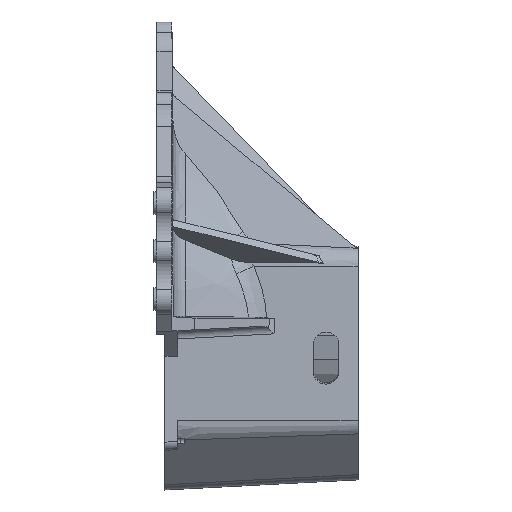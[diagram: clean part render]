
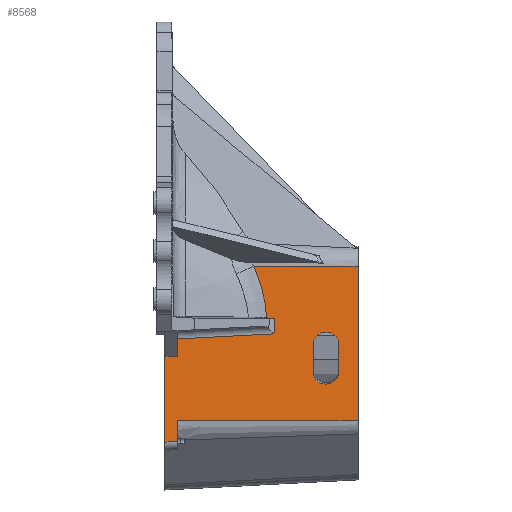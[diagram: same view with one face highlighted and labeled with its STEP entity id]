
A CAD part, front view. The second image highlights one B-rep face of the part: STEP entity #8568.
In plain terms, the highlighted planar face has unit normal (0.052, -0.998, 0.026).
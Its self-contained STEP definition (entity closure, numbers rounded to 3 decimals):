
#36=ELLIPSE('',#8930,10.347,10.16);
#37=ELLIPSE('',#8931,10.347,10.16);
#100=PLANE('',#8929);
#305=B_SPLINE_CURVE_WITH_KNOTS('',3,(#11445,#11446,#11447,#11448),
 .UNSPECIFIED.,.F.,.F.,(4,4),(0.,0.042),.UNSPECIFIED.);
#597=LINE('',#11427,#963);
#598=LINE('',#11431,#964);
#599=LINE('',#11432,#965);
#600=LINE('',#11435,#966);
#601=LINE('',#11437,#967);
#602=LINE('',#11439,#968);
#603=LINE('',#11441,#969);
#604=LINE('',#11443,#970);
#605=LINE('',#11450,#971);
#606=LINE('',#11452,#972);
#607=LINE('',#11454,#973);
#608=LINE('',#11456,#974);
#609=LINE('',#11458,#975);
#610=LINE('',#11460,#976);
#963=VECTOR('',#9610,1000.);
#964=VECTOR('',#9613,1000.);
#965=VECTOR('',#9614,1000.);
#966=VECTOR('',#9615,1000.);
#967=VECTOR('',#9616,1000.);
#968=VECTOR('',#9617,1000.);
#969=VECTOR('',#9618,1000.);
#970=VECTOR('',#9619,1000.);
#971=VECTOR('',#9620,1000.);
#972=VECTOR('',#9621,1000.);
#973=VECTOR('',#9622,1000.);
#974=VECTOR('',#9623,1000.);
#975=VECTOR('',#9624,1000.);
#976=VECTOR('',#9625,1000.);
#1366=ORIENTED_EDGE('',*,*,#3274,.F.);
#1367=ORIENTED_EDGE('',*,*,#3275,.F.);
#1368=ORIENTED_EDGE('',*,*,#3276,.F.);
#1369=ORIENTED_EDGE('',*,*,#3277,.F.);
#1370=ORIENTED_EDGE('',*,*,#3278,.F.);
#1371=ORIENTED_EDGE('',*,*,#3279,.T.);
#1372=ORIENTED_EDGE('',*,*,#3280,.F.);
#1373=ORIENTED_EDGE('',*,*,#3281,.T.);
#1374=ORIENTED_EDGE('',*,*,#3282,.T.);
#1375=ORIENTED_EDGE('',*,*,#3283,.F.);
#1376=ORIENTED_EDGE('',*,*,#3284,.T.);
#1377=ORIENTED_EDGE('',*,*,#3285,.F.);
#1378=ORIENTED_EDGE('',*,*,#3286,.T.);
#1379=ORIENTED_EDGE('',*,*,#3287,.T.);
#1380=ORIENTED_EDGE('',*,*,#3288,.T.);
#1381=ORIENTED_EDGE('',*,*,#3289,.F.);
#1382=ORIENTED_EDGE('',*,*,#3290,.T.);
#3274=EDGE_CURVE('',#4226,#4227,#36,.T.);
#3275=EDGE_CURVE('',#4228,#4226,#597,.T.);
#3276=EDGE_CURVE('',#4229,#4228,#37,.T.);
#3277=EDGE_CURVE('',#4227,#4229,#598,.T.);
#3278=EDGE_CURVE('',#4230,#4231,#599,.T.);
#3279=EDGE_CURVE('',#4230,#4232,#600,.T.);
#3280=EDGE_CURVE('',#4233,#4232,#601,.F.);
#3281=EDGE_CURVE('',#4233,#4234,#602,.F.);
#3282=EDGE_CURVE('',#4234,#4235,#603,.T.);
#3283=EDGE_CURVE('',#4236,#4235,#604,.F.);
#3284=EDGE_CURVE('',#4236,#4237,#305,.T.);
#3285=EDGE_CURVE('',#4238,#4237,#605,.T.);
#3286=EDGE_CURVE('',#4238,#4239,#606,.T.);
#3287=EDGE_CURVE('',#4239,#4240,#607,.T.);
#3288=EDGE_CURVE('',#4240,#4241,#608,.F.);
#3289=EDGE_CURVE('',#4242,#4241,#609,.T.);
#3290=EDGE_CURVE('',#4242,#4231,#610,.F.);
#4226=VERTEX_POINT('',#11425);
#4227=VERTEX_POINT('',#11426);
#4228=VERTEX_POINT('',#11428);
#4229=VERTEX_POINT('',#11430);
#4230=VERTEX_POINT('',#11433);
#4231=VERTEX_POINT('',#11434);
#4232=VERTEX_POINT('',#11436);
#4233=VERTEX_POINT('',#11438);
#4234=VERTEX_POINT('',#11440);
#4235=VERTEX_POINT('',#11442);
#4236=VERTEX_POINT('',#11444);
#4237=VERTEX_POINT('',#11449);
#4238=VERTEX_POINT('',#11451);
#4239=VERTEX_POINT('',#11453);
#4240=VERTEX_POINT('',#11455);
#4241=VERTEX_POINT('',#11457);
#4242=VERTEX_POINT('',#11459);
#5123=EDGE_LOOP('',(#1366,#1367,#1368,#1369));
#5124=EDGE_LOOP('',(#1370,#1371,#1372,#1373,#1374,#1375,#1376,#1377,#1378,
#1379,#1380,#1381,#1382));
#5580=FACE_BOUND('',#5123,.T.);
#5581=FACE_BOUND('',#5124,.T.);
#8568=ADVANCED_FACE('',(#5580,#5581),#100,.T.);
#8929=AXIS2_PLACEMENT_3D('',#11423,#9606,#9607);
#8930=AXIS2_PLACEMENT_3D('',#11424,#9608,#9609);
#8931=AXIS2_PLACEMENT_3D('',#11429,#9611,#9612);
#9606=DIRECTION('',(0.052,-0.998,0.026));
#9607=DIRECTION('',(0.999,0.052,0.));
#9608=DIRECTION('',(0.052,-0.998,0.026));
#9609=DIRECTION('',(0.272,0.039,0.962));
#9610=DIRECTION('',(0.,-0.026,-1.));
#9611=DIRECTION('',(0.052,-0.998,0.026));
#9612=DIRECTION('',(0.272,0.039,0.962));
#9613=DIRECTION('',(0.,0.026,1.));
#9614=DIRECTION('',(0.,0.026,1.));
#9615=DIRECTION('',(0.997,0.054,0.052));
#9616=DIRECTION('',(0.,0.026,1.));
#9617=DIRECTION('',(-0.999,-0.052,0.001));
#9618=DIRECTION('',(0.,0.026,1.));
#9619=DIRECTION('',(-0.999,-0.052,0.001));
#9620=DIRECTION('',(-0.997,-0.051,0.059));
#9621=DIRECTION('',(-0.027,-0.027,-0.999));
#9622=DIRECTION('',(-0.997,-0.054,-0.052));
#9623=DIRECTION('',(-0.24,0.013,0.971));
#9624=DIRECTION('',(0.,0.026,1.));
#9625=DIRECTION('',(0.998,0.053,0.021));
#11423=CARTESIAN_POINT('',(149.606,-121.258,3.15));
#11424=CARTESIAN_POINT('',(121.666,-123.631,-31.829));
#11425=CARTESIAN_POINT('',(111.506,-124.166,-31.913));
#11426=CARTESIAN_POINT('',(131.826,-123.096,-31.744));
#11427=CARTESIAN_POINT('',(111.506,-123.254,3.202));
#11428=CARTESIAN_POINT('',(111.506,-123.63,-11.255));
#11429=CARTESIAN_POINT('',(121.666,-123.095,-11.17));
#11430=CARTESIAN_POINT('',(131.826,-122.56,-11.086));
#11431=CARTESIAN_POINT('',(131.826,-122.189,3.174));
#11432=CARTESIAN_POINT('',(-6.35,-129.428,3.362));
#11433=CARTESIAN_POINT('',(-6.35,-131.809,-88.278));
#11434=CARTESIAN_POINT('',(-6.35,-130.04,-20.17));
#11435=CARTESIAN_POINT('',(3.462,-131.281,-87.764));
#11436=CARTESIAN_POINT('',(3.81,-131.263,-87.746));
#11437=CARTESIAN_POINT('',(3.81,-128.896,3.348));
#11438=CARTESIAN_POINT('',(3.81,-130.823,-70.831));
#11439=CARTESIAN_POINT('',(149.606,-123.185,-71.029));
#11440=CARTESIAN_POINT('',(147.066,-123.318,-71.026));
#11441=CARTESIAN_POINT('',(147.066,-121.391,3.153));
#11442=CARTESIAN_POINT('',(147.066,-120.143,51.199));
#11443=CARTESIAN_POINT('',(149.606,-120.01,51.196));
#11444=CARTESIAN_POINT('',(64.598,-124.463,51.311));
#11445=CARTESIAN_POINT('',(64.598,-124.463,51.311));
#11446=CARTESIAN_POINT('',(70.021,-124.52,38.177));
#11447=CARTESIAN_POINT('',(73.646,-124.683,24.601));
#11448=CARTESIAN_POINT('',(74.565,-125.004,10.376));
#11449=CARTESIAN_POINT('',(74.565,-125.004,10.376));
#11450=CARTESIAN_POINT('',(149.767,-121.177,5.96));
#11451=CARTESIAN_POINT('',(80.669,-124.694,10.017));
#11452=CARTESIAN_POINT('',(80.536,-124.827,5.141));
#11453=CARTESIAN_POINT('',(80.332,-125.031,-2.296));
#11454=CARTESIAN_POINT('',(-14.892,-130.153,-7.286));
#11455=CARTESIAN_POINT('',(1.747,-129.258,-6.414));
#11456=CARTESIAN_POINT('',(8.042,-129.588,-31.82));
#11457=CARTESIAN_POINT('',(3.81,-129.366,-14.741));
#11458=CARTESIAN_POINT('',(3.81,-128.896,3.348));
#11459=CARTESIAN_POINT('',(3.81,-129.502,-19.955));
#11460=CARTESIAN_POINT('',(150.055,-121.754,-16.863));
